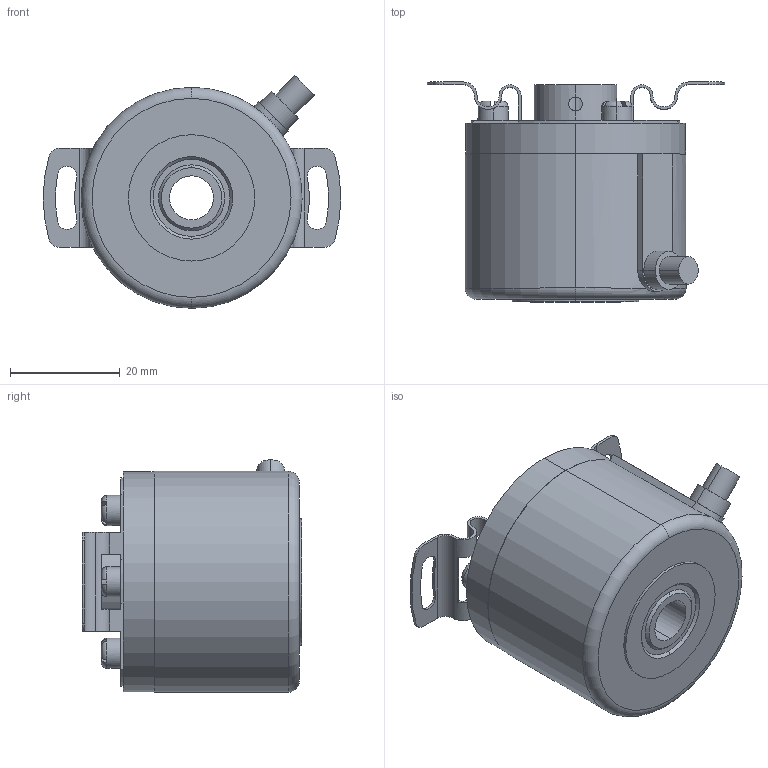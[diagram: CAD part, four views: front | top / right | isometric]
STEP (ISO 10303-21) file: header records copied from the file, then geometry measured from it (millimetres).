
FILE_DESCRIPTION (( 'STEP AP214' ), '1' );
FILE_NAME ('MHL40.STEP', '2012-06-06T12:12:22', ( '' ), ( '' ), 'SwSTEP 2.0', 'SolidWorks 2012', '' );
FILE_SCHEMA (( 'AUTOMOTIVE_DESIGN' ));
Length unit declared in the file: millimetre
Products named in the file (1): MHL40
Bounding box: 54.16 x 40 x 42.33 mm (x, y, z)
Volume: 41032.4 mm3; surface area: 9598.3 mm2
Topology: 1 solids, 4 shells, 190 faces, 483 edges, 310 vertices
Faces by surface type: plane 90, cylinder 80, torus 16, cone 4
Entity records: 7228 total; most frequent: CARTESIAN_POINT 1374, DIRECTION 1035, ORIENTED_EDGE 966, EDGE_CURVE 483, AXIS2_PLACEMENT_3D 397, VERTEX_POINT 310, LINE 241, VECTOR 241
